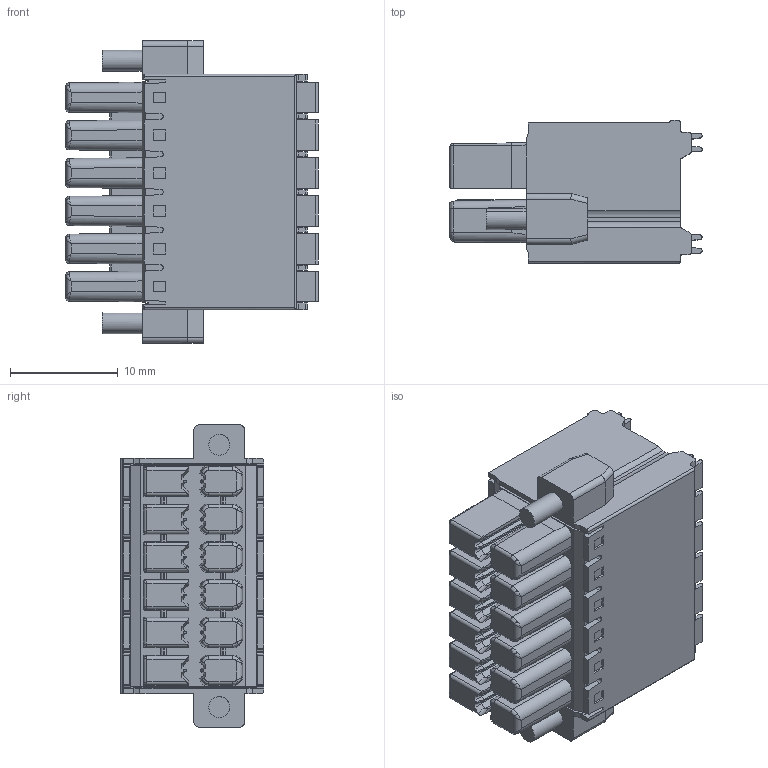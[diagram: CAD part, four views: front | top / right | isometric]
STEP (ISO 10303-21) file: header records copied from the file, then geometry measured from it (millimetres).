
FILE_DESCRIPTION( (''), '2;1');
FILE_NAME ('YS8Z-CN12.stp','2022-12-01T14:59:18',(''),(''),'spGate 12.6.6','','');
FILE_SCHEMA (('AUTOMOTIVE_DESIGN'));
Length unit declared in the file: millimetre
Bounding box: 23.35 x 13.25 x 28 mm (x, y, z)
Volume: 4596.3 mm3; surface area: 4263 mm2
Topology: 1 solids, 1 shells, 1156 faces, 3047 edges, 1919 vertices
Faces by surface type: plane 637, cylinder 391, bspline 128
Entity records: 65291 total; most frequent: CARTESIAN_POINT 13265, ORIENTED_EDGE 6046, DIRECTION 5554, COLOUR_RGB 4180, PRESENTATION_STYLE_ASSIGNMENT 4180, STYLED_ITEM 4180, EDGE_CURVE 3023, DRAUGHTING_PRE_DEFINED_CURVE_FONT 3023
